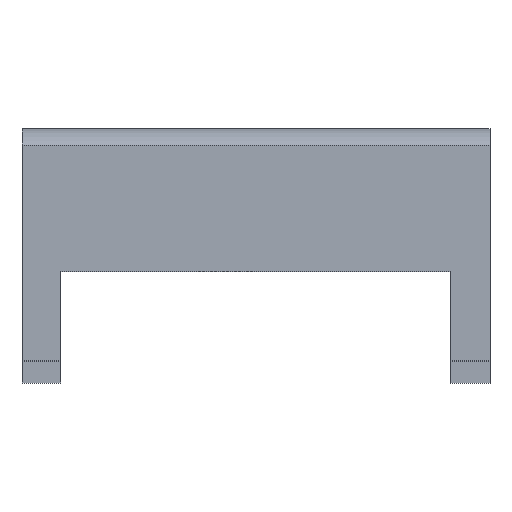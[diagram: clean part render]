
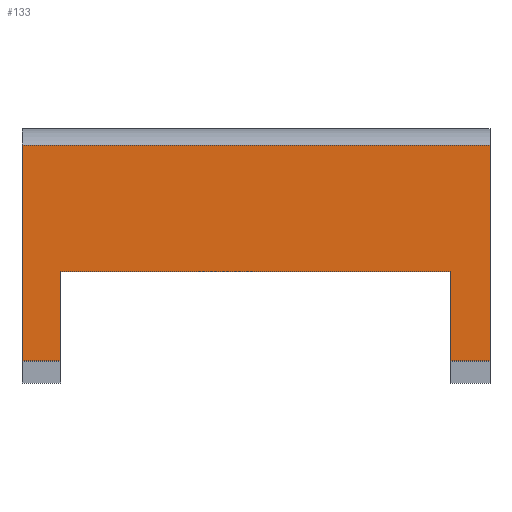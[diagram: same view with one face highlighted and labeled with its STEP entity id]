
A CAD part, front view. The second image highlights one B-rep face of the part: STEP entity #133.
In plain terms, the highlighted planar face has unit normal (0, -1, 0).
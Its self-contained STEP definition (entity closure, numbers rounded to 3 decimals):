
#21 = EDGE_CURVE('',#22,#24,#26,.T.);
#22 = VERTEX_POINT('',#23);
#23 = CARTESIAN_POINT('',(-17.5,-66.,-8.));
#24 = VERTEX_POINT('',#25);
#25 = CARTESIAN_POINT('',(-21.,-66.,-8.));
#26 = SURFACE_CURVE('',#27,(#31,#42),.PCURVE_S1.);
#27 = LINE('',#28,#29);
#28 = CARTESIAN_POINT('',(-60.5,-66.,-8.));
#29 = VECTOR('',#30,1.);
#30 = DIRECTION('',(-1.,0.,0.));
#31 = PCURVE('',#32,#37);
#32 = PLANE('',#33);
#33 = AXIS2_PLACEMENT_3D('',#34,#35,#36);
#34 = CARTESIAN_POINT('',(-100.,-110.,-8.));
#35 = DIRECTION('',(0.,0.,1.));
#36 = DIRECTION('',(1.,0.,-0.));
#37 = DEFINITIONAL_REPRESENTATION('',(#38),#41);
#38 = B_SPLINE_CURVE_WITH_KNOTS('',1,(#39,#40),.UNSPECIFIED.,.F.,.F.,(2,
    2),(-81.5,-39.5),.PIECEWISE_BEZIER_KNOTS.);
#39 = CARTESIAN_POINT('',(121.,44.));
#40 = CARTESIAN_POINT('',(79.,44.));
#41 = ( GEOMETRIC_REPRESENTATION_CONTEXT(2) 
PARAMETRIC_REPRESENTATION_CONTEXT() REPRESENTATION_CONTEXT('2D SPACE',''
  ) );
#42 = PCURVE('',#43,#48);
#43 = PLANE('',#44);
#44 = AXIS2_PLACEMENT_3D('',#45,#46,#47);
#45 = CARTESIAN_POINT('',(-21.,-66.,-12.));
#46 = DIRECTION('',(0.,1.,0.));
#47 = DIRECTION('',(0.,0.,1.));
#48 = DEFINITIONAL_REPRESENTATION('',(#49),#52);
#49 = B_SPLINE_CURVE_WITH_KNOTS('',1,(#50,#51),.UNSPECIFIED.,.F.,.F.,(2,
    2),(-81.5,-39.5),.PIECEWISE_BEZIER_KNOTS.);
#50 = CARTESIAN_POINT('',(4.,42.));
#51 = CARTESIAN_POINT('',(4.,0.));
#52 = ( GEOMETRIC_REPRESENTATION_CONTEXT(2) 
PARAMETRIC_REPRESENTATION_CONTEXT() REPRESENTATION_CONTEXT('2D SPACE',''
  ) );
#70 = PLANE('',#71);
#71 = AXIS2_PLACEMENT_3D('',#72,#73,#74);
#72 = CARTESIAN_POINT('',(-17.5,-74.,-12.));
#73 = DIRECTION('',(1.,0.,0.));
#74 = DIRECTION('',(0.,0.,1.));
#123 = PLANE('',#124);
#124 = AXIS2_PLACEMENT_3D('',#125,#126,#127);
#125 = CARTESIAN_POINT('',(-21.,-66.,-12.));
#126 = DIRECTION('',(1.,0.,0.));
#127 = DIRECTION('',(0.,0.,1.));
#133 = ADVANCED_FACE('',(#134),#43,.F.);
#134 = FACE_BOUND('',#135,.F.);
#135 = EDGE_LOOP('',(#136,#166,#192,#218,#244,#263,#264,#287));
#136 = ORIENTED_EDGE('',*,*,#137,.F.);
#137 = EDGE_CURVE('',#138,#140,#142,.T.);
#138 = VERTEX_POINT('',#139);
#139 = CARTESIAN_POINT('',(21.,-66.,-8.));
#140 = VERTEX_POINT('',#141);
#141 = CARTESIAN_POINT('',(21.,-66.,11.332));
#142 = SURFACE_CURVE('',#143,(#147,#154),.PCURVE_S1.);
#143 = LINE('',#144,#145);
#144 = CARTESIAN_POINT('',(21.,-66.,-12.));
#145 = VECTOR('',#146,1.);
#146 = DIRECTION('',(0.,0.,1.));
#147 = PCURVE('',#43,#148);
#148 = DEFINITIONAL_REPRESENTATION('',(#149),#153);
#149 = LINE('',#150,#151);
#150 = CARTESIAN_POINT('',(0.,42.));
#151 = VECTOR('',#152,1.);
#152 = DIRECTION('',(1.,0.));
#153 = ( GEOMETRIC_REPRESENTATION_CONTEXT(2) 
PARAMETRIC_REPRESENTATION_CONTEXT() REPRESENTATION_CONTEXT('2D SPACE',''
  ) );
#154 = PCURVE('',#155,#160);
#155 = PLANE('',#156);
#156 = AXIS2_PLACEMENT_3D('',#157,#158,#159);
#157 = CARTESIAN_POINT('',(21.,-66.,-12.));
#158 = DIRECTION('',(1.,0.,0.));
#159 = DIRECTION('',(0.,0.,1.));
#160 = DEFINITIONAL_REPRESENTATION('',(#161),#165);
#161 = LINE('',#162,#163);
#162 = CARTESIAN_POINT('',(0.,0.));
#163 = VECTOR('',#164,1.);
#164 = DIRECTION('',(1.,0.));
#165 = ( GEOMETRIC_REPRESENTATION_CONTEXT(2) 
PARAMETRIC_REPRESENTATION_CONTEXT() REPRESENTATION_CONTEXT('2D SPACE',''
  ) );
#166 = ORIENTED_EDGE('',*,*,#167,.T.);
#167 = EDGE_CURVE('',#138,#168,#170,.T.);
#168 = VERTEX_POINT('',#169);
#169 = CARTESIAN_POINT('',(17.5,-66.,-8.));
#170 = SURFACE_CURVE('',#171,(#175,#181),.PCURVE_S1.);
#171 = LINE('',#172,#173);
#172 = CARTESIAN_POINT('',(-60.5,-66.,-8.));
#173 = VECTOR('',#174,1.);
#174 = DIRECTION('',(-1.,0.,0.));
#175 = PCURVE('',#43,#176);
#176 = DEFINITIONAL_REPRESENTATION('',(#177),#180);
#177 = B_SPLINE_CURVE_WITH_KNOTS('',1,(#178,#179),.UNSPECIFIED.,.F.,.F.,
  (2,2),(-81.5,-78.),.PIECEWISE_BEZIER_KNOTS.);
#178 = CARTESIAN_POINT('',(4.,42.));
#179 = CARTESIAN_POINT('',(4.,38.5));
#180 = ( GEOMETRIC_REPRESENTATION_CONTEXT(2) 
PARAMETRIC_REPRESENTATION_CONTEXT() REPRESENTATION_CONTEXT('2D SPACE',''
  ) );
#181 = PCURVE('',#182,#187);
#182 = PLANE('',#183);
#183 = AXIS2_PLACEMENT_3D('',#184,#185,#186);
#184 = CARTESIAN_POINT('',(-100.,-110.,-8.));
#185 = DIRECTION('',(0.,0.,1.));
#186 = DIRECTION('',(1.,0.,-0.));
#187 = DEFINITIONAL_REPRESENTATION('',(#188),#191);
#188 = B_SPLINE_CURVE_WITH_KNOTS('',1,(#189,#190),.UNSPECIFIED.,.F.,.F.,
  (2,2),(-81.5,-78.),.PIECEWISE_BEZIER_KNOTS.);
#189 = CARTESIAN_POINT('',(121.,44.));
#190 = CARTESIAN_POINT('',(117.5,44.));
#191 = ( GEOMETRIC_REPRESENTATION_CONTEXT(2) 
PARAMETRIC_REPRESENTATION_CONTEXT() REPRESENTATION_CONTEXT('2D SPACE',''
  ) );
#192 = ORIENTED_EDGE('',*,*,#193,.T.);
#193 = EDGE_CURVE('',#168,#194,#196,.T.);
#194 = VERTEX_POINT('',#195);
#195 = CARTESIAN_POINT('',(17.5,-66.,0.));
#196 = SURFACE_CURVE('',#197,(#201,#207),.PCURVE_S1.);
#197 = LINE('',#198,#199);
#198 = CARTESIAN_POINT('',(17.5,-66.,-12.));
#199 = VECTOR('',#200,1.);
#200 = DIRECTION('',(0.,0.,1.));
#201 = PCURVE('',#43,#202);
#202 = DEFINITIONAL_REPRESENTATION('',(#203),#206);
#203 = B_SPLINE_CURVE_WITH_KNOTS('',1,(#204,#205),.UNSPECIFIED.,.F.,.F.,
  (2,2),(2.,12.),.PIECEWISE_BEZIER_KNOTS.);
#204 = CARTESIAN_POINT('',(2.,38.5));
#205 = CARTESIAN_POINT('',(12.,38.5));
#206 = ( GEOMETRIC_REPRESENTATION_CONTEXT(2) 
PARAMETRIC_REPRESENTATION_CONTEXT() REPRESENTATION_CONTEXT('2D SPACE',''
  ) );
#207 = PCURVE('',#208,#213);
#208 = PLANE('',#209);
#209 = AXIS2_PLACEMENT_3D('',#210,#211,#212);
#210 = CARTESIAN_POINT('',(17.5,-74.,-12.));
#211 = DIRECTION('',(1.,0.,0.));
#212 = DIRECTION('',(0.,0.,1.));
#213 = DEFINITIONAL_REPRESENTATION('',(#214),#217);
#214 = B_SPLINE_CURVE_WITH_KNOTS('',1,(#215,#216),.UNSPECIFIED.,.F.,.F.,
  (2,2),(2.,12.),.PIECEWISE_BEZIER_KNOTS.);
#215 = CARTESIAN_POINT('',(2.,-8.));
#216 = CARTESIAN_POINT('',(12.,-8.));
#217 = ( GEOMETRIC_REPRESENTATION_CONTEXT(2) 
PARAMETRIC_REPRESENTATION_CONTEXT() REPRESENTATION_CONTEXT('2D SPACE',''
  ) );
#218 = ORIENTED_EDGE('',*,*,#219,.T.);
#219 = EDGE_CURVE('',#194,#220,#222,.T.);
#220 = VERTEX_POINT('',#221);
#221 = CARTESIAN_POINT('',(-17.5,-66.,0.));
#222 = SURFACE_CURVE('',#223,(#227,#233),.PCURVE_S1.);
#223 = LINE('',#224,#225);
#224 = CARTESIAN_POINT('',(-19.25,-66.,0.));
#225 = VECTOR('',#226,1.);
#226 = DIRECTION('',(-1.,0.,0.));
#227 = PCURVE('',#43,#228);
#228 = DEFINITIONAL_REPRESENTATION('',(#229),#232);
#229 = B_SPLINE_CURVE_WITH_KNOTS('',1,(#230,#231),.UNSPECIFIED.,.F.,.F.,
  (2,2),(-36.75,-1.75),.PIECEWISE_BEZIER_KNOTS.);
#230 = CARTESIAN_POINT('',(12.,38.5));
#231 = CARTESIAN_POINT('',(12.,3.5));
#232 = ( GEOMETRIC_REPRESENTATION_CONTEXT(2) 
PARAMETRIC_REPRESENTATION_CONTEXT() REPRESENTATION_CONTEXT('2D SPACE',''
  ) );
#233 = PCURVE('',#234,#239);
#234 = PLANE('',#235);
#235 = AXIS2_PLACEMENT_3D('',#236,#237,#238);
#236 = CARTESIAN_POINT('',(-17.5,-74.,0.));
#237 = DIRECTION('',(0.,0.,1.));
#238 = DIRECTION('',(1.,0.,-0.));
#239 = DEFINITIONAL_REPRESENTATION('',(#240),#243);
#240 = B_SPLINE_CURVE_WITH_KNOTS('',1,(#241,#242),.UNSPECIFIED.,.F.,.F.,
  (2,2),(-36.75,-1.75),.PIECEWISE_BEZIER_KNOTS.);
#241 = CARTESIAN_POINT('',(35.,8.));
#242 = CARTESIAN_POINT('',(0.,8.));
#243 = ( GEOMETRIC_REPRESENTATION_CONTEXT(2) 
PARAMETRIC_REPRESENTATION_CONTEXT() REPRESENTATION_CONTEXT('2D SPACE',''
  ) );
#244 = ORIENTED_EDGE('',*,*,#245,.F.);
#245 = EDGE_CURVE('',#22,#220,#246,.T.);
#246 = SURFACE_CURVE('',#247,(#251,#257),.PCURVE_S1.);
#247 = LINE('',#248,#249);
#248 = CARTESIAN_POINT('',(-17.5,-66.,-12.));
#249 = VECTOR('',#250,1.);
#250 = DIRECTION('',(0.,0.,1.));
#251 = PCURVE('',#43,#252);
#252 = DEFINITIONAL_REPRESENTATION('',(#253),#256);
#253 = B_SPLINE_CURVE_WITH_KNOTS('',1,(#254,#255),.UNSPECIFIED.,.F.,.F.,
  (2,2),(2.,12.),.PIECEWISE_BEZIER_KNOTS.);
#254 = CARTESIAN_POINT('',(2.,3.5));
#255 = CARTESIAN_POINT('',(12.,3.5));
#256 = ( GEOMETRIC_REPRESENTATION_CONTEXT(2) 
PARAMETRIC_REPRESENTATION_CONTEXT() REPRESENTATION_CONTEXT('2D SPACE',''
  ) );
#257 = PCURVE('',#70,#258);
#258 = DEFINITIONAL_REPRESENTATION('',(#259),#262);
#259 = B_SPLINE_CURVE_WITH_KNOTS('',1,(#260,#261),.UNSPECIFIED.,.F.,.F.,
  (2,2),(2.,12.),.PIECEWISE_BEZIER_KNOTS.);
#260 = CARTESIAN_POINT('',(2.,-8.));
#261 = CARTESIAN_POINT('',(12.,-8.));
#262 = ( GEOMETRIC_REPRESENTATION_CONTEXT(2) 
PARAMETRIC_REPRESENTATION_CONTEXT() REPRESENTATION_CONTEXT('2D SPACE',''
  ) );
#263 = ORIENTED_EDGE('',*,*,#21,.T.);
#264 = ORIENTED_EDGE('',*,*,#265,.T.);
#265 = EDGE_CURVE('',#24,#266,#268,.T.);
#266 = VERTEX_POINT('',#267);
#267 = CARTESIAN_POINT('',(-21.,-66.,11.332));
#268 = SURFACE_CURVE('',#269,(#273,#280),.PCURVE_S1.);
#269 = LINE('',#270,#271);
#270 = CARTESIAN_POINT('',(-21.,-66.,-12.));
#271 = VECTOR('',#272,1.);
#272 = DIRECTION('',(0.,0.,1.));
#273 = PCURVE('',#43,#274);
#274 = DEFINITIONAL_REPRESENTATION('',(#275),#279);
#275 = LINE('',#276,#277);
#276 = CARTESIAN_POINT('',(0.,0.));
#277 = VECTOR('',#278,1.);
#278 = DIRECTION('',(1.,0.));
#279 = ( GEOMETRIC_REPRESENTATION_CONTEXT(2) 
PARAMETRIC_REPRESENTATION_CONTEXT() REPRESENTATION_CONTEXT('2D SPACE',''
  ) );
#280 = PCURVE('',#123,#281);
#281 = DEFINITIONAL_REPRESENTATION('',(#282),#286);
#282 = LINE('',#283,#284);
#283 = CARTESIAN_POINT('',(0.,0.));
#284 = VECTOR('',#285,1.);
#285 = DIRECTION('',(1.,0.));
#286 = ( GEOMETRIC_REPRESENTATION_CONTEXT(2) 
PARAMETRIC_REPRESENTATION_CONTEXT() REPRESENTATION_CONTEXT('2D SPACE',''
  ) );
#287 = ORIENTED_EDGE('',*,*,#288,.F.);
#288 = EDGE_CURVE('',#140,#266,#289,.T.);
#289 = SURFACE_CURVE('',#290,(#294,#300),.PCURVE_S1.);
#290 = LINE('',#291,#292);
#291 = CARTESIAN_POINT('',(25.,-66.,11.332));
#292 = VECTOR('',#293,1.);
#293 = DIRECTION('',(-1.,-0.,-0.));
#294 = PCURVE('',#43,#295);
#295 = DEFINITIONAL_REPRESENTATION('',(#296),#299);
#296 = B_SPLINE_CURVE_WITH_KNOTS('',1,(#297,#298),.UNSPECIFIED.,.F.,.F.,
  (2,2),(0.,50.),.PIECEWISE_BEZIER_KNOTS.);
#297 = CARTESIAN_POINT('',(23.332,46.));
#298 = CARTESIAN_POINT('',(23.332,-4.));
#299 = ( GEOMETRIC_REPRESENTATION_CONTEXT(2) 
PARAMETRIC_REPRESENTATION_CONTEXT() REPRESENTATION_CONTEXT('2D SPACE',''
  ) );
#300 = PCURVE('',#301,#306);
#301 = CYLINDRICAL_SURFACE('',#302,3.8);
#302 = AXIS2_PLACEMENT_3D('',#303,#304,#305);
#303 = CARTESIAN_POINT('',(25.,-63.,9.));
#304 = DIRECTION('',(-1.,-0.,-0.));
#305 = DIRECTION('',(0.,-1.,0.));
#306 = DEFINITIONAL_REPRESENTATION('',(#307),#310);
#307 = B_SPLINE_CURVE_WITH_KNOTS('',1,(#308,#309),.UNSPECIFIED.,.F.,.F.,
  (2,2),(0.,50.),.PIECEWISE_BEZIER_KNOTS.);
#308 = CARTESIAN_POINT('',(0.661,0.));
#309 = CARTESIAN_POINT('',(0.661,50.));
#310 = ( GEOMETRIC_REPRESENTATION_CONTEXT(2) 
PARAMETRIC_REPRESENTATION_CONTEXT() REPRESENTATION_CONTEXT('2D SPACE',''
  ) );
